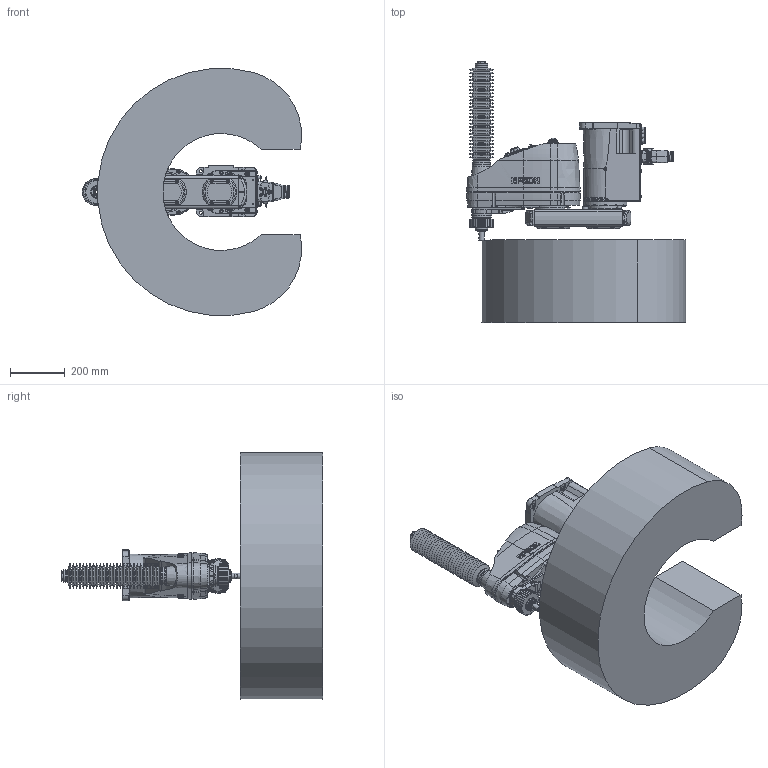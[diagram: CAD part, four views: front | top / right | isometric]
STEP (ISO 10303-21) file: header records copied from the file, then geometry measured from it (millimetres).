
FILE_DESCRIPTION( ( 'STEP AP214' ), '1' );
FILE_NAME( 'C:/Users/9607552/Desktop/GX8-B453CR_straight.stp', '2023-07-07T01:48:04', ( '' ), ( '' ), ' ', 'PARTsolutions', ' ' );
FILE_SCHEMA( ( 'AUTOMOTIVE_DESIGN { 1 0 10303 214 1 1 1 1 }' ) );
Length unit declared in the file: millimetre
Products named in the file (11): GX8-B453CRS-W; _B452CR_BASE; _B452CR; _B452CR_1; _B452CR_2; _B452C_J2; _B453CZA; _2-B-long; _2-B-short; _Straight-B; _GX8-11-1-B_WS
Assembly tree (12 placements, depth 2):
  GX8-B453CRS-W
    _B452CR_BASE
    _B452CR
    _B452CR_1  x2
    _B452CR_2  x2
    _B452C_J2
    _B453CZA
    _2-B-long
    _2-B-short
    _Straight-B
    _GX8-11-1-B_WS
Bounding box: 797.24 x 950.5 x 896.58 mm (x, y, z)
Volume: 137631816.7 mm3; surface area: 3320008.9 mm2
Topology: 12 solids, 16 shells, 3419 faces, 8188 edges, 5266 vertices
Faces by surface type: plane 1603, cylinder 1115, cone 497, torus 162, bspline 37, sphere 5
Full cylindrical faces by diameter (mm): 1 x48, 1.18 x55, 2.261 x4, 2.459 x12, 3 x32, 3.242 x18, 3.3 x4, 3.9 x4, 4.2 x8, 4.5 x12, 4.8 x4, 5.34 x4, 5.5 x17, 6 x5, 6.2 x4, 6.647 x4, 6.8 x2, 7 x48, 8 x5, 8.5 x6, 9 x24, 10 x18, 11 x4, 11.2 x7, 11.5 x1, 12 x5, 12.2 x1, 12.25 x1, 13 x3, 13.2 x12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
Entity records: 120848 total; most frequent: CARTESIAN_POINT 22609, DIRECTION 15049, ORIENTED_EDGE 13440, EDGE_CURVE 6720, AXIS2_PLACEMENT_3D 5947, VERTEX_POINT 4884, EDGE_LOOP 4674, FACE_OUTER_BOUND 3863
